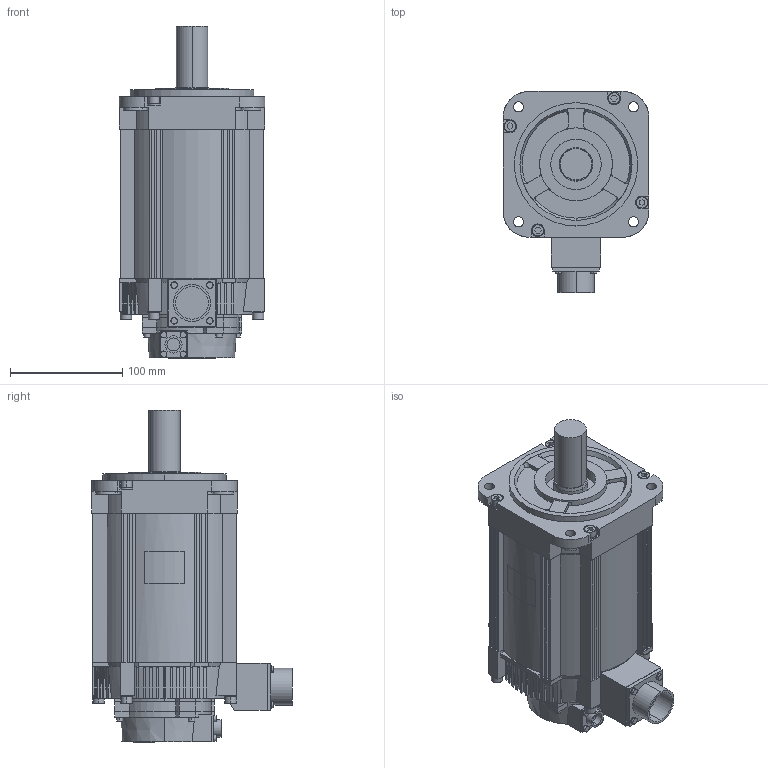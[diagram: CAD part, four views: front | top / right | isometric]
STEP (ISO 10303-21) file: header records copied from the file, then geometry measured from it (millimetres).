
FILE_DESCRIPTION (( 'STEP AP203' ), '1' );
FILE_NAME ('sgm7a_40a_a21.STEP', '2016-02-18T23:40:00', ( '匠エンジニアリング山之内' ), ( 'TAKUMI-Engniaring' ), 'SwSTEP 2.0', 'SolidWorks 2006303', '' );
FILE_SCHEMA (( 'CONFIG_CONTROL_DESIGN' ));
Length unit declared in the file: millimetre
Products named in the file (1): sgm7a_40a_a21
Bounding box: 130 x 179 x 296.1 mm (x, y, z)
Volume: 2990194 mm3; surface area: 199476.7 mm2
Topology: 1 solids, 1 shells, 710 faces, 1883 edges, 1237 vertices
Faces by surface type: plane 476, cylinder 208, cone 20, bspline 6
Entity records: 22539 total; most frequent: CARTESIAN_POINT 4560, ORIENTED_EDGE 3766, DIRECTION 3709, EDGE_CURVE 1883, AXIS2_PLACEMENT_3D 1263, VERTEX_POINT 1237, VECTOR 1183, LINE 1183
